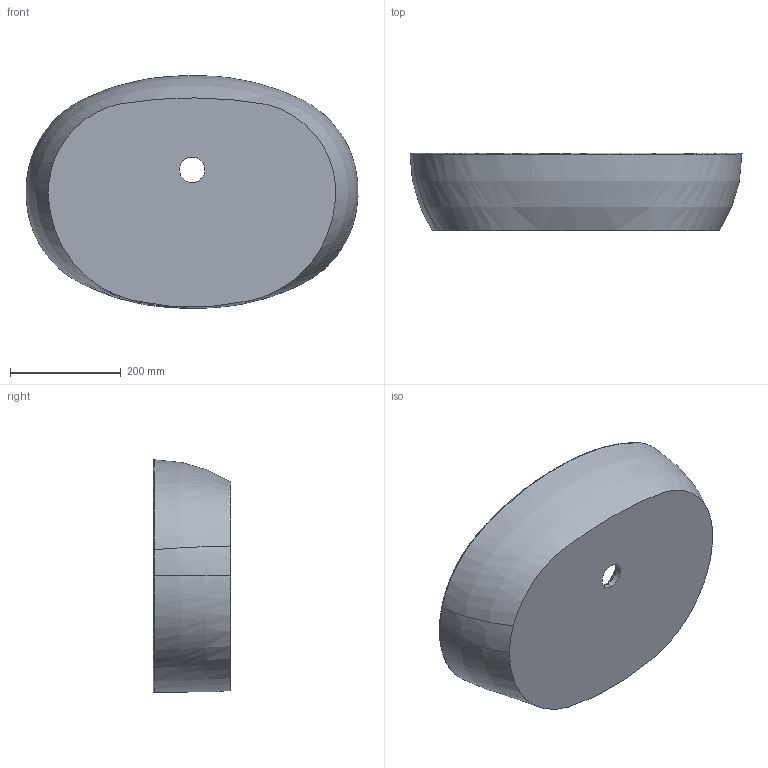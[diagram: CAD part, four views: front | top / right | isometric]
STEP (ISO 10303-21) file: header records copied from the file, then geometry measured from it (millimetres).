
FILE_DESCRIPTION(/* description */ (''),/* implementation_level */ '2;1');
FILE_NAME(/* name */ 'ECI60M',/* time_stamp */ '2017-12-11T12:13:35+01:00',/* author */ (''),/* organization */ (''),/* preprocessor_version */ 'ST-DEVELOPER v15',/* originating_system */ '',/* authorisation */ '');
FILE_SCHEMA (('AUTOMOTIVE_DESIGN'));
Length unit declared in the file: millimetre
Products named in the file (1): Document
Bounding box: 599.68 x 140 x 419.73 mm (x, y, z)
Surface area: 687885.8 mm2 (no closed solid volume)
Topology: 0 solids, 2 shells, 42 faces, 113 edges, 70 vertices
Faces by surface type: bspline 39, plane 3
Entity records: 9022 total; most frequent: CARTESIAN_POINT 8421, ORIENTED_EDGE 216, EDGE_CURVE 113, VERTEX_POINT 70, EDGE_LOOP 45, ADVANCED_FACE 42, FACE_OUTER_BOUND 42, B_SPLINE_CURVE_WITH_KNOTS 24
